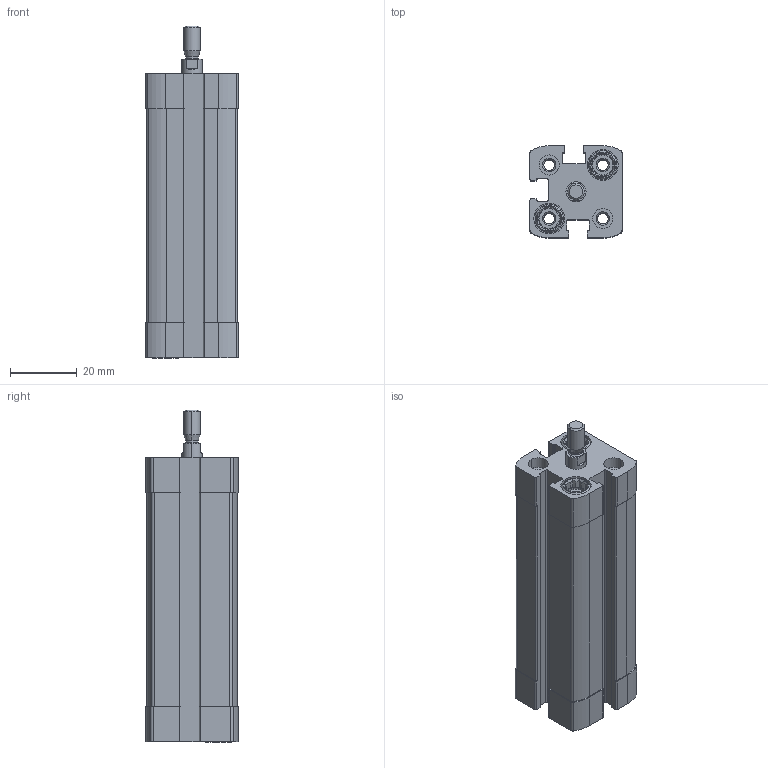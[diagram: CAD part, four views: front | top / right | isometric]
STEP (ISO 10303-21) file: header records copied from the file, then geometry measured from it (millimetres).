
FILE_DESCRIPTION (( 'STEP AP203' ), '1' );
FILE_NAME ('CCN12-50M.STEP', '2017-03-28T12:40:07', ( '' ), ( '' ), 'SwSTEP 2.0', 'SolidWorks 2016', '' );
FILE_SCHEMA (( 'CONFIG_CONTROL_DESIGN' ));
Length unit declared in the file: millimetre
Products named in the file (3): CCN-50-(Z); CCN-50_(KS); CCN12-50M
Assembly tree (2 placements, depth 2):
  CCN12-50M
    CCN-50-(Z)
    CCN-50_(KS)
Bounding box: 27.5 x 27.5 x 99.2 mm (x, y, z)
Volume: 44074.4 mm3; surface area: 23184 mm2
Topology: 2 solids, 2 shells, 365 faces, 940 edges, 614 vertices
Faces by surface type: plane 187, cylinder 134, cone 40, bspline 4
Entity records: 11593 total; most frequent: CARTESIAN_POINT 2284, DIRECTION 1894, ORIENTED_EDGE 1880, EDGE_CURVE 940, AXIS2_PLACEMENT_3D 688, VERTEX_POINT 614, LINE 518, VECTOR 518
